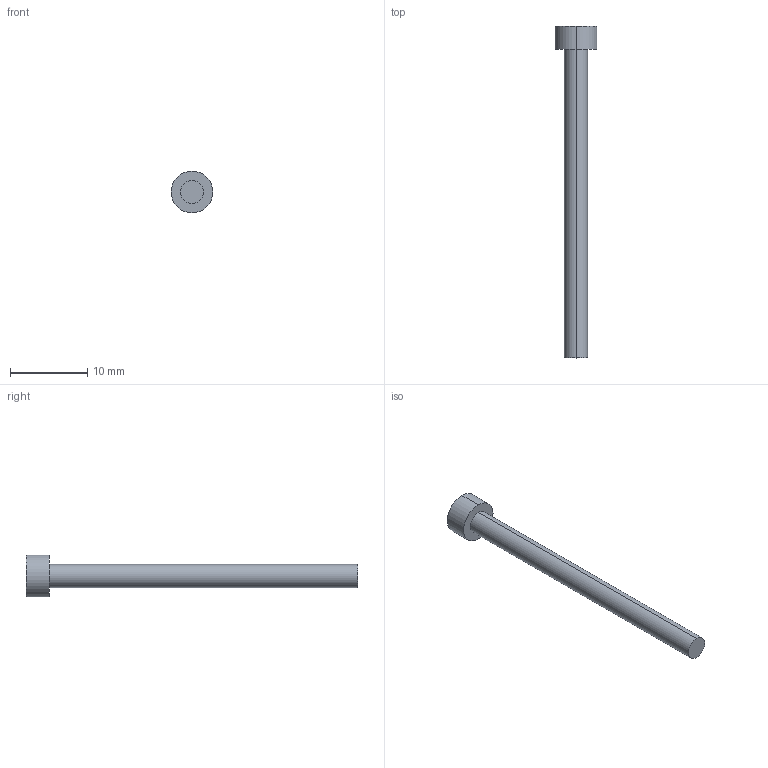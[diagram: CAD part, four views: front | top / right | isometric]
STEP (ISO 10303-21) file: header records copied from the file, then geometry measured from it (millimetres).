
FILE_DESCRIPTION (( 'STEP AP214' ), '1' );
FILE_NAME ('M3_imbus_40mm.STEP', '2026-02-22T20:19:04', ( '' ), ( '' ), 'SwSTEP 2.0', 'SolidWorks 2024', '' );
FILE_SCHEMA (( 'AUTOMOTIVE_DESIGN' ));
Length unit declared in the file: millimetre
Products named in the file (1): M3_imbus_40mm
Bounding box: 5.4 x 43 x 5.4 mm (x, y, z)
Volume: 332 mm3; surface area: 499.7 mm2
Topology: 1 solids, 1 shells, 14 faces, 30 edges, 20 vertices
Faces by surface type: plane 10, cylinder 4
Entity records: 405 total; most frequent: DIRECTION 68, CARTESIAN_POINT 65, ORIENTED_EDGE 60, EDGE_CURVE 30, AXIS2_PLACEMENT_3D 23, LINE 22, VECTOR 22, VERTEX_POINT 20
